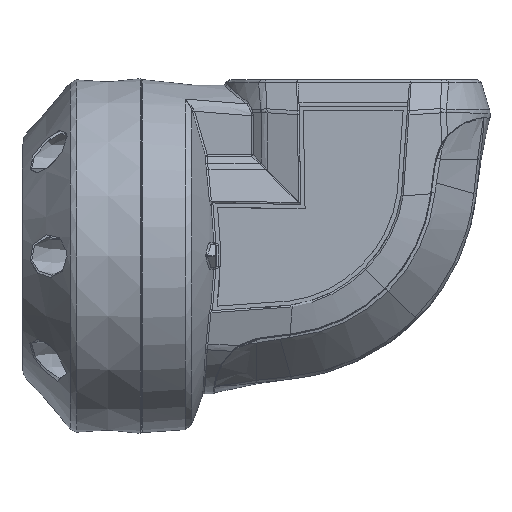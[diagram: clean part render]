
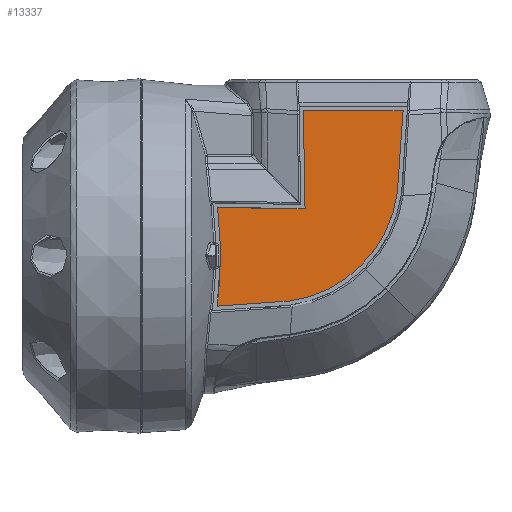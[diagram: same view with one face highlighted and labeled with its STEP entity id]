
A CAD part, left-side view. The second image highlights one B-rep face of the part: STEP entity #13337.
In plain terms, the highlighted planar face has unit normal (-1, 0, 0.012).
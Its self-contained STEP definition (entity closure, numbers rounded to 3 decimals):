
#10959=FACE_OUTER_BOUND('',#20565,.T.);
#13337=ADVANCED_FACE('',(#10959),#13666,.T.);
#13666=PLANE('',#42238);
#14465=LINE('',#107218,#15335);
#14468=LINE('',#107224,#15338);
#14470=LINE('',#107228,#15340);
#14475=LINE('',#107298,#15345);
#14477=LINE('',#107439,#15347);
#15335=VECTOR('',#48284,1.);
#15338=VECTOR('',#48289,1.);
#15340=VECTOR('',#48293,1.);
#15345=VECTOR('',#48300,1.);
#15347=VECTOR('',#48304,1.);
#17570=B_SPLINE_CURVE_WITH_KNOTS('',3,(#107232,#107233,#107234,#107235,#107236,
#107237),.UNSPECIFIED.,.F.,.F.,(4,2,4),(0.,0.5,1.),.UNSPECIFIED.);
#17571=B_SPLINE_CURVE_WITH_KNOTS('',3,(#107262,#107263,#107264,#107265,#107266,
#107267),.UNSPECIFIED.,.F.,.F.,(4,2,4),(0.,0.5,1.),.UNSPECIFIED.);
#17573=B_SPLINE_CURVE_WITH_KNOTS('',3,(#107305,#107306,#107307,#107308,#107309,
#107310,#107311,#107312,#107313,#107314,#107315,#107316),.UNSPECIFIED.,.F.,
 .F.,(4,2,2,2,2,4),(0.,0.5,0.75,0.875,0.938,1.),.UNSPECIFIED.);
#17574=B_SPLINE_CURVE_WITH_KNOTS('',3,(#107379,#107380,#107381,#107382,#107383,
#107384,#107385,#107386,#107387,#107388,#107389,#107390),.UNSPECIFIED.,.F.,
 .F.,(4,2,2,2,2,4),(0.,0.503,0.755,0.88,
0.943,1.),.UNSPECIFIED.);
#20565=EDGE_LOOP('',(#30090,#30091,#30092,#30093,#30094,#30095,#30096,#30097,
#30098,#30099));
#30090=ORIENTED_EDGE('',*,*,#37983,.F.);
#30091=ORIENTED_EDGE('',*,*,#37984,.F.);
#30092=ORIENTED_EDGE('',*,*,#37967,.F.);
#30093=ORIENTED_EDGE('',*,*,#37970,.T.);
#30094=ORIENTED_EDGE('',*,*,#37972,.F.);
#30095=ORIENTED_EDGE('',*,*,#37974,.T.);
#30096=ORIENTED_EDGE('',*,*,#37985,.T.);
#30097=ORIENTED_EDGE('',*,*,#37975,.F.);
#30098=ORIENTED_EDGE('',*,*,#37979,.T.);
#30099=ORIENTED_EDGE('',*,*,#37981,.T.);
#33173=VERTEX_POINT('',#107217);
#33174=VERTEX_POINT('',#107219);
#33175=VERTEX_POINT('',#107223);
#33176=VERTEX_POINT('',#107227);
#33177=VERTEX_POINT('',#107231);
#33178=VERTEX_POINT('',#107268);
#33179=VERTEX_POINT('',#107269);
#33180=VERTEX_POINT('',#107297);
#33181=VERTEX_POINT('',#107304);
#33182=VERTEX_POINT('',#107378);
#37967=EDGE_CURVE('',#33173,#33174,#14465,.T.);
#37970=EDGE_CURVE('',#33173,#33175,#14468,.T.);
#37972=EDGE_CURVE('',#33176,#33175,#14470,.T.);
#37974=EDGE_CURVE('',#33176,#33177,#17570,.T.);
#37975=EDGE_CURVE('',#33178,#33179,#17571,.T.);
#37979=EDGE_CURVE('',#33178,#33180,#14475,.T.);
#37981=EDGE_CURVE('',#33180,#33181,#17573,.T.);
#37983=EDGE_CURVE('',#33182,#33181,#17574,.T.);
#37984=EDGE_CURVE('',#33174,#33182,#14477,.T.);
#37985=EDGE_CURVE('',#33177,#33179,#39624,.T.);
#39624=CIRCLE('',#42228,100.);
#42228=AXIS2_PLACEMENT_3D('',#107441,#48307,#48308);
#42238=AXIS2_PLACEMENT_3D('',#107641,#48341,#48342);
#48284=DIRECTION('',(0.,-1.,0.));
#48289=DIRECTION('',(-0.012,-0.017,-1.));
#48293=DIRECTION('',(0.,-1.,-0.017));
#48300=DIRECTION('',(0.001,-0.998,0.07));
#48304=DIRECTION('',(-0.012,0.07,-0.997));
#48307=DIRECTION('',(1.,0.,-0.012));
#48308=DIRECTION('',(-0.012,0.,-1.));
#48341=DIRECTION('',(-1.,0.,0.012));
#48342=DIRECTION('',(0.012,0.,1.));
#107217=CARTESIAN_POINT('',(387.037,1759.548,-25.836));
#107218=CARTESIAN_POINT('',(387.037,1709.925,-25.836));
#107219=CARTESIAN_POINT('',(387.037,1712.136,-25.836));
#107223=CARTESIAN_POINT('',(386.467,1758.733,-72.489));
#107224=CARTESIAN_POINT('',(386.016,1758.089,-109.413));
#107227=CARTESIAN_POINT('',(386.476,1800.293,-71.764));
#107228=CARTESIAN_POINT('',(386.48,1820.183,-71.417));
#107231=CARTESIAN_POINT('',(386.231,1799.03,-91.839));
#107232=CARTESIAN_POINT('',(386.476,1800.293,-71.764));
#107233=CARTESIAN_POINT('',(386.435,1799.923,-75.105));
#107234=CARTESIAN_POINT('',(386.394,1799.634,-78.452));
#107235=CARTESIAN_POINT('',(386.313,1799.221,-85.155));
#107236=CARTESIAN_POINT('',(386.271,1799.124,-88.514));
#107237=CARTESIAN_POINT('',(386.231,1799.03,-91.839));
#107262=CARTESIAN_POINT('',(385.902,1800.494,-118.745));
#107263=CARTESIAN_POINT('',(385.944,1800.084,-115.308));
#107264=CARTESIAN_POINT('',(385.986,1799.76,-111.865));
#107265=CARTESIAN_POINT('',(386.071,1799.286,-104.966));
#107266=CARTESIAN_POINT('',(386.113,1799.164,-101.506));
#107267=CARTESIAN_POINT('',(386.155,1799.048,-98.082));
#107268=CARTESIAN_POINT('',(385.902,1800.494,-118.745));
#107269=CARTESIAN_POINT('',(386.155,1799.048,-98.082));
#107297=CARTESIAN_POINT('',(385.931,1766.325,-116.356));
#107298=CARTESIAN_POINT('',(385.901,1802.311,-118.872));
#107304=CARTESIAN_POINT('',(386.14,1731.965,-99.283));
#107305=CARTESIAN_POINT('',(385.931,1766.325,-116.356));
#107306=CARTESIAN_POINT('',(385.942,1759.8,-115.515));
#107307=CARTESIAN_POINT('',(385.965,1753.605,-113.634));
#107308=CARTESIAN_POINT('',(386.018,1744.772,-109.246));
#107309=CARTESIAN_POINT('',(386.039,1741.986,-107.561));
#107310=CARTESIAN_POINT('',(386.074,1738.047,-104.704));
#107311=CARTESIAN_POINT('',(386.086,1736.774,-103.697));
#107312=CARTESIAN_POINT('',(386.105,1734.925,-102.103));
#107313=CARTESIAN_POINT('',(386.112,1734.319,-101.558));
#107314=CARTESIAN_POINT('',(386.126,1733.127,-100.441));
#107315=CARTESIAN_POINT('',(386.133,1732.56,-99.888));
#107316=CARTESIAN_POINT('',(386.14,1731.965,-99.283));
#107378=CARTESIAN_POINT('',(386.56,1714.867,-64.899));
#107379=CARTESIAN_POINT('',(386.56,1714.867,-64.899));
#107380=CARTESIAN_POINT('',(386.48,1715.714,-71.468));
#107381=CARTESIAN_POINT('',(386.404,1717.617,-77.708));
#107382=CARTESIAN_POINT('',(386.295,1722.053,-86.588));
#107383=CARTESIAN_POINT('',(386.261,1723.757,-89.388));
#107384=CARTESIAN_POINT('',(386.212,1726.648,-93.344));
#107385=CARTESIAN_POINT('',(386.197,1727.667,-94.622));
#107386=CARTESIAN_POINT('',(386.174,1729.28,-96.478));
#107387=CARTESIAN_POINT('',(386.167,1729.831,-97.086));
#107388=CARTESIAN_POINT('',(386.153,1730.907,-98.225));
#107389=CARTESIAN_POINT('',(386.147,1731.421,-98.745));
#107390=CARTESIAN_POINT('',(386.14,1731.965,-99.283));
#107439=CARTESIAN_POINT('',(385.934,1718.448,-116.101));
#107441=CARTESIAN_POINT('',(386.196,1898.99,-94.675));
#107641=CARTESIAN_POINT('',(386.007,1802.918,-110.195));
